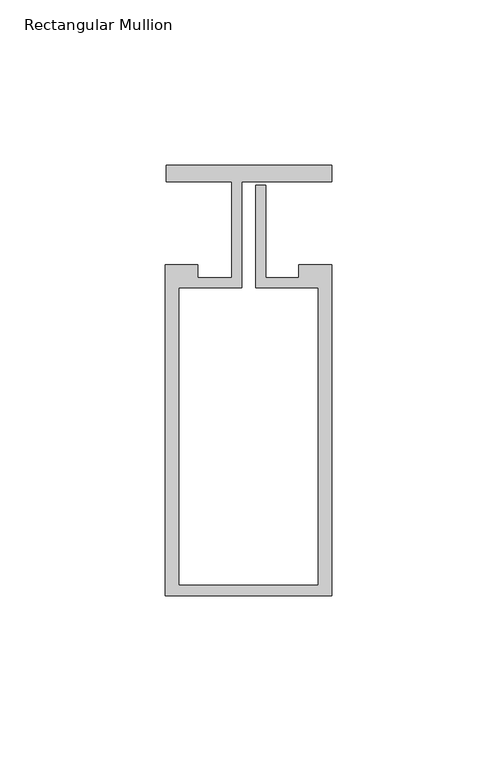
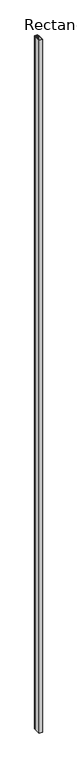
"""IFC4 building model written with IfcOpenShell, lengths in millimetres: member geometry, Rectangular Mullion : Reynaers_CW-50_Mullion-Transom_Horizontal_5mm_Facecap-02D."""

from ifc_helpers import new_model, si_unit, frame, origin, place, context, project, spatial, polyline, outline, extrude, source, transform, mapped, element, save


def rectangular_mullion_b8634e93(model_context):
    return source(origin(), model_context, "Body", "SweptSolid", [
        extrude(outline(polyline([(-24.8004059, 17.5), (25.1995941, 17.5), (25.1995941, 12.5), (-1.9004059, 12.5), (-1.9004059, -19.5), (-20.994845, -19.5), (-20.994845, -109.4191338), (21.1995941, -109.4191338), (21.1995941, -19.5), (2.2995941, -19.5), (2.2995941, 11.5), (5.2995941, 11.5), (5.2995941, -16.5), (15.2996495, -16.5), (15.2996495, -12.5), (25.1995941, -12.5), (25.1995941, -112.5), (-24.994845, -112.5), (-24.994845, -12.5), (-15.2996495, -12.5), (-15.2996495, -16.5), (-4.9004059, -16.5), (-4.9004059, 12.5), (-24.8004059, 12.5), (-24.8004059, 17.5)])), frame((0.0, 0.0, -12000.0), z_axis=(0.0, 0.0, 1.0), x_axis=(1.0, 0.0, 0.0)), (0.0, 0.0, 1.0), 12000.0),
    ])


if __name__ == "__main__":
    model = new_model("IFC4")
    model_context = context("Model", 3, world=origin())
    ifc_project = project(units=[si_unit("LENGTHUNIT", "METRE", prefix="MILLI")], contexts=[model_context])
    site = spatial("IfcSite", under=ifc_project)
    building = spatial("IfcBuilding", under=site)
    placement = place(None, origin())
    rectangular_mullion_shape = rectangular_mullion_b8634e93(model_context)
    element("IfcMember", 1, ObjectType="Rectangular Mullion : Reynaers_CW-50_Mullion-Transom_Horizontal_5mm_Facecap-02D", at=placement, inside=building, context=model_context, shape_type="MappedRepresentation", body=[
        mapped(rectangular_mullion_shape, transform((0.0, 0.0, 0.0), x_axis=(1.0, 0.0, 0.0), y_axis=(0.0, 1.0, 0.0), z_axis=(0.0, 0.0, 1.0))),
    ])
    save(model, "model.ifc")
